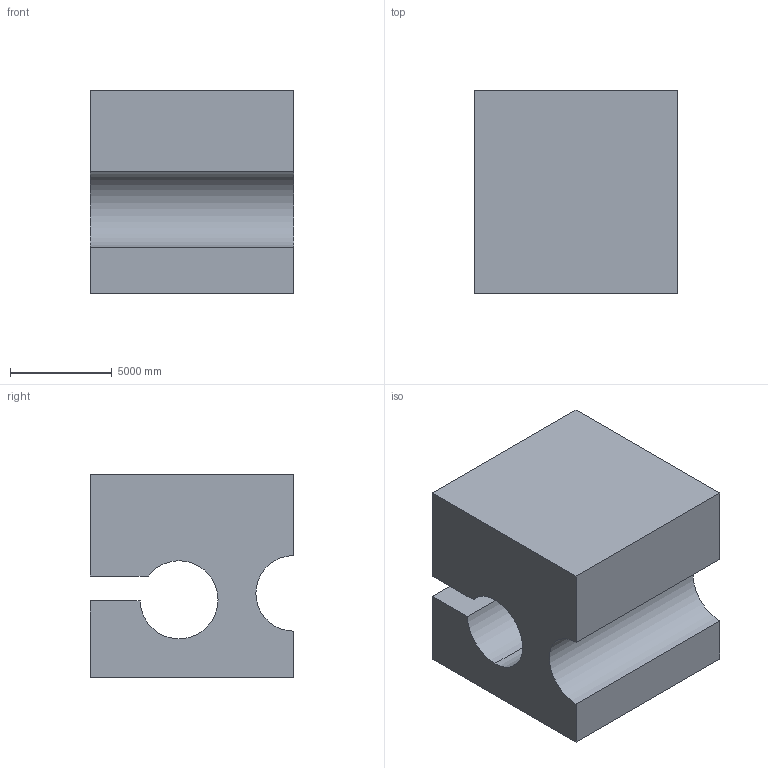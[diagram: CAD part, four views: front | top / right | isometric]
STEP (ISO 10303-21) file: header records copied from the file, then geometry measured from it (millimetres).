
FILE_DESCRIPTION (( 'STEP AP203' ), '1' );
FILE_NAME ('1291.STEP', '2022-08-18T13:35:39', ( 'user' ), ( '' ), 'SwSTEP 2.0', 'SolidWorks 2021', '' );
FILE_SCHEMA (( 'CONFIG_CONTROL_DESIGN' ));
Length unit declared in the file: centimetre
Products named in the file (1): 1291
Bounding box: 10000 x 10000 x 10000 mm (x, y, z)
Volume: 798731860100 mm3; surface area: 729006543.9 mm2
Topology: 1 solids, 1 shells, 14 faces, 36 edges, 24 vertices
Faces by surface type: plane 10, cylinder 4
Entity records: 505 total; most frequent: CARTESIAN_POINT 75, DIRECTION 74, ORIENTED_EDGE 72, EDGE_CURVE 36, LINE 28, VECTOR 28, VERTEX_POINT 24, AXIS2_PLACEMENT_3D 23
